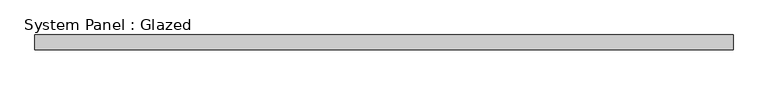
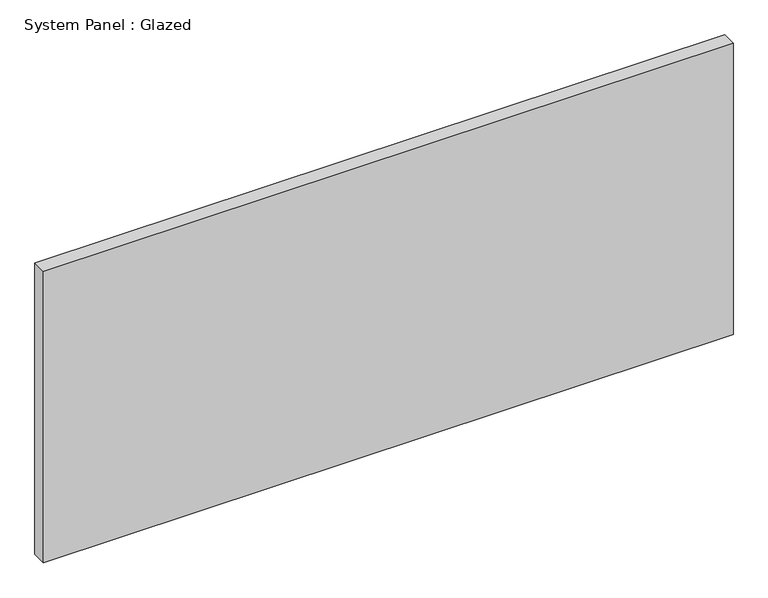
"""IFC4 building model written with IfcOpenShell, lengths in millimetres: plate geometry, System Panel : Glazed."""

from ifc_helpers import new_model, si_unit, origin, origin_with_axes, place, context, project, spatial, polyline, outline, extrude, source, transform, mapped, element, save


def system_panel_glazed_dac4f711(model_context):
    return source(origin(), model_context, "Body", "SweptSolid", [
        extrude(outline(polyline([(587.5, 24.5), (-587.5, 24.5), (-587.5, 49.5), (587.5, 49.5), (587.5, 24.5)])), origin_with_axes(), (0.0, 0.0, 1.0), 525.0),
    ])


if __name__ == "__main__":
    model = new_model("IFC4")
    model_context = context("Model", 3, world=origin())
    ifc_project = project(units=[si_unit("LENGTHUNIT", "METRE", prefix="MILLI")], contexts=[model_context])
    site = spatial("IfcSite", under=ifc_project)
    building = spatial("IfcBuilding", under=site)
    placement = place(None, origin())
    system_panel_glazed_shape = system_panel_glazed_dac4f711(model_context)
    element("IfcPlate", 1, ObjectType="System Panel : Glazed", at=placement, inside=building, context=model_context, shape_type="MappedRepresentation", body=[
        mapped(system_panel_glazed_shape, transform((0.0, 0.0, 0.0), x_axis=(1.0, 0.0, 0.0), y_axis=(0.0, 1.0, 0.0), z_axis=(0.0, 0.0, 1.0))),
    ])
    save(model, "model.ifc")
